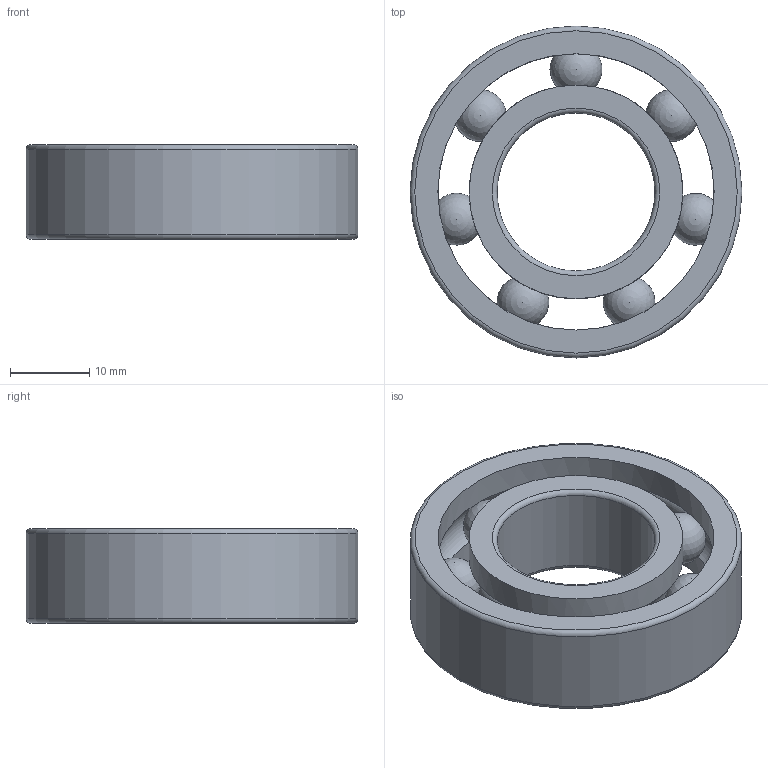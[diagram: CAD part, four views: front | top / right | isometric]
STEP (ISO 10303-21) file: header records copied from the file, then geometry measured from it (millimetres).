
FILE_DESCRIPTION(/* description */ ('SS BALL BEARING WITH RS1 SEALS'),/* implementation_level */ '2;1');
FILE_NAME(/* name */ 'SS6004-2RS.stp',/* time_stamp */ '2022-09-16T10:38:32+02:00',/* author */ ('ML'),/* organization */ ('CARRYLINE'),/* preprocessor_version */ 'ST-DEVELOPER v19.2',/* originating_system */ 'Autodesk Inventor 2023',/* authorisation */ '');
FILE_SCHEMA (('AUTOMOTIVE_DESIGN { 1 0 10303 214 3 1 1 }'));
Length unit declared in the file: millimetre
Products named in the file (1): SS6004-2RS
Bounding box: 42 x 42 x 12 mm (x, y, z)
Volume: 8302.3 mm3; surface area: 7061 mm2
Topology: 1 solids, 1 shells, 35 faces, 135 edges, 90 vertices
Faces by surface type: torus 18, sphere 7, cylinder 6, plane 4
Full cylindrical faces by diameter (mm): 20 x1, 27.04 x2, 34.96 x2, 42 x1
Entity records: 2083 total; most frequent: CARTESIAN_POINT 989, ORIENTED_EDGE 242, DIRECTION 196, EDGE_CURVE 121, AXIS2_PLACEMENT_3D 95, VERTEX_POINT 90, CIRCLE 59, B_SPLINE_CURVE_WITH_KNOTS 56
